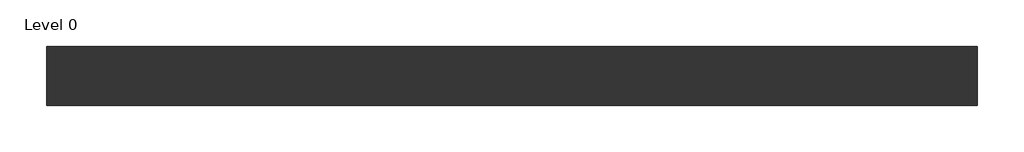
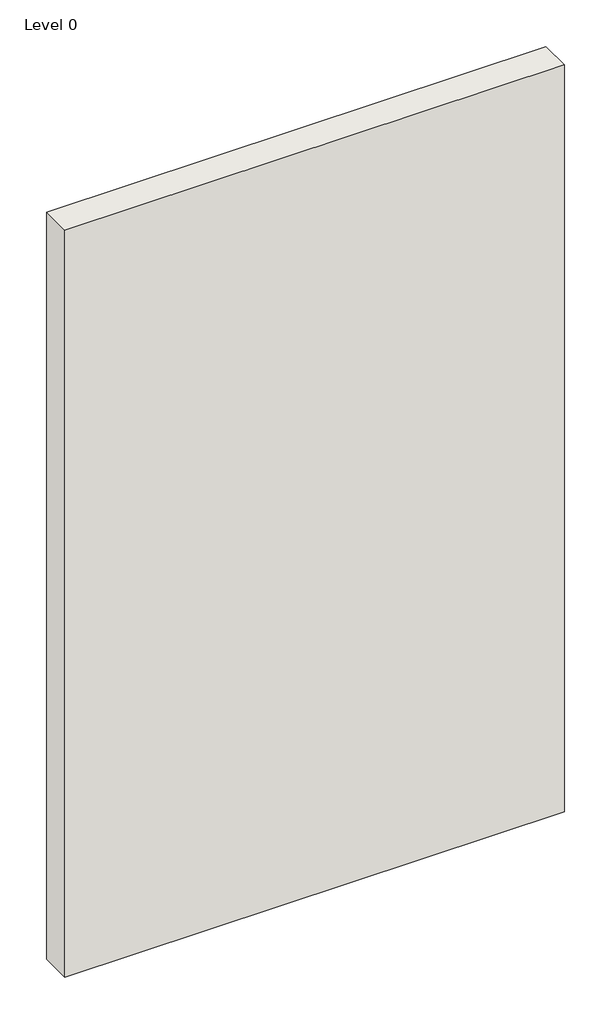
# One storey: 1 wall.
"""IFC4 building model written with IfcOpenShell, lengths in millimetres."""

import ifcopenshell
import ifcopenshell.guid

model = None  # the IFC model being written
_history = None  # IfcOwnerHistory: only IFC2X3 demands one
_inside = {}  # id of a spatial element -> (the spatial element, [elements in it])
_under = {}  # id of a project, library or spatial element -> (it, [spatial elements below it])
_declared = {}  # id of a project -> (the project, [libraries it declares])
_typed = {}  # id of a type object -> (the type object, [elements of that type])
_made_of = {}  # id of a material, layer set ... -> (it, [elements and type objects made of it])


def new_model(schema):
    """Start an empty IFC model of exactly this schema.

    Asked for "IFC4X3", IfcOpenShell would pick the latest addendum, in which some entities
    have other attributes; the version numbers below select the first issue.
    IFC2X3 requires an IfcOwnerHistory on every rooted entity: one is made here for all.
    """
    global model, _history
    if schema == "IFC4X3":
        model = ifcopenshell.file(schema_version=(4, 3, 0, 0))
    else:
        model = ifcopenshell.file(schema=schema)
    _inside.clear()
    _under.clear()
    _declared.clear()
    _typed.clear()
    _made_of.clear()
    _history = None
    if model.schema == "IFC2X3":
        org = make("IfcOrganization", Name="unknown")
        user = make(
            "IfcPersonAndOrganization",
            ThePerson=make("IfcPerson", FamilyName="unknown"),
            TheOrganization=org,
        )
        app = make(
            "IfcApplication",
            ApplicationDeveloper=org,
            Version="unknown",
            ApplicationFullName="unknown",
            ApplicationIdentifier="unknown",
        )
        _history = make(
            "IfcOwnerHistory",
            OwningUser=user,
            OwningApplication=app,
            ChangeAction="ADDED",
            CreationDate=0,
        )
    return model


def make(cls, **values):
    """One entity of the class cls with the attributes given. An attribute that is None is left unset."""
    return model.create_entity(
        cls, **{name: value for name, value in values.items() if value is not None}
    )


def rooted(cls, **values):
    """An entity with a GlobalId (a new one), such as an element, a storey or a relation."""
    return make(cls, GlobalId=ifcopenshell.guid.new(), OwnerHistory=_history, **values)


def si_unit(unit_type, name, prefix=None):
    """IfcSIUnit, for example si_unit("LENGTHUNIT", "METRE", prefix="MILLI")."""
    return make("IfcSIUnit", UnitType=unit_type, Prefix=prefix, Name=name)


def assignment(units):
    """IfcUnitAssignment: the units of a project."""
    return None if units is None else make("IfcUnitAssignment", Units=units)


def point(xyz):
    """IfcCartesianPoint."""
    return None if xyz is None else make("IfcCartesianPoint", Coordinates=xyz)


def direction(xyz):
    """IfcDirection."""
    return None if xyz is None else make("IfcDirection", DirectionRatios=xyz)


def frame(location, z_axis=None, x_axis=None):
    """IfcAxis2Placement3D, a coordinate frame: its origin and axes. An axis left out is left unset."""
    return make(
        "IfcAxis2Placement3D",
        Location=point(location),
        Axis=direction(z_axis),
        RefDirection=direction(x_axis),
    )


def origin():
    """The frame at (0, 0, 0) with its axes left unset."""
    return frame((0.0, 0.0, 0.0))


def origin_with_axes():
    """The frame at (0, 0, 0) with the z axis (0, 0, 1) and the x axis (1, 0, 0) written out."""
    return frame((0.0, 0.0, 0.0), z_axis=(0.0, 0.0, 1.0), x_axis=(1.0, 0.0, 0.0))


def place(relative_to, where):
    """IfcLocalPlacement: puts the frame where relative to a parent placement (None: the world)."""
    return make(
        "IfcLocalPlacement", PlacementRelTo=relative_to, RelativePlacement=where
    )


def context(
    kind, dimensions, precision=None, world=None, true_north=None, identifier=None
):
    """IfcGeometricRepresentationContext, for example the 3D "Model" context."""
    return make(
        "IfcGeometricRepresentationContext",
        ContextIdentifier=identifier,
        ContextType=kind,
        CoordinateSpaceDimension=dimensions,
        Precision=precision,
        WorldCoordinateSystem=world,
        TrueNorth=true_north,
    )


def project(units=None, contexts=None):
    """IfcProject with its units and contexts."""
    return rooted(
        "IfcProject",
        Name="project",
        RepresentationContexts=contexts,
        UnitsInContext=assignment(units),
    )


def spatial(cls, under=None, at=None, **own):
    """A site, building, storey or space (cls), placed at a placement, below another one or the project."""
    s = rooted(cls, ObjectPlacement=at, **own)
    if under is not None:
        _under.setdefault(under.id(), (under, []))[1].append(s)
    return s


def polyline(points):
    """IfcPolyline through the points."""
    return make("IfcPolyline", Points=[point(p) for p in points])


def outline(outer, holes=None, kind="AREA"):
    """IfcArbitraryClosedProfileDef: a profile drawn as a closed curve; with holes, ...WithVoids."""
    if holes is None:
        return make("IfcArbitraryClosedProfileDef", ProfileType=kind, OuterCurve=outer)
    return make(
        "IfcArbitraryProfileDefWithVoids",
        ProfileType=kind,
        OuterCurve=outer,
        InnerCurves=holes,
    )


def extrude(swept, where, along, depth):
    """IfcExtrudedAreaSolid: the profile swept, set in the frame where, extruded along a direction by depth."""
    return make(
        "IfcExtrudedAreaSolid",
        SweptArea=swept,
        Position=where,
        ExtrudedDirection=direction(along),
        Depth=depth,
    )


def shape(context_of_items, identifier, shape_type, items):
    """IfcShapeRepresentation: the items that make up one representation, for example the "Body"."""
    return make(
        "IfcShapeRepresentation",
        ContextOfItems=context_of_items,
        RepresentationIdentifier=identifier,
        RepresentationType=shape_type,
        Items=items,
    )


def made_of(thing, what):
    """Note that an element or type object is made of a material, layer set ...; save() writes the relation."""
    if what is not None:
        _made_of.setdefault(what.id(), (what, []))[1].append(thing)
    return thing


def element(
    cls,
    number,
    at=None,
    inside=None,
    cuts=None,
    type_object=None,
    material=None,
    context=None,
    identifier="Body",
    shape_type=None,
    held_by="IfcProductDefinitionShape",
    body=None,
    shapes=None,
    **own,
):
    """One element of the class cls, such as IfcWall. Its Tag is "e" and its number.

    at: its placement. inside: the storey or other place that contains it. cuts: it is an
    opening in that element (IfcRelVoidsElement). A single representation is given by context,
    identifier, shape_type and body (its items); several are given by shapes. held_by: the class
    of the entity that holds the representations. save() writes the other relations.
    """
    e = rooted(cls, Tag="e%d" % number, ObjectPlacement=at, **own)
    if body is not None:
        shapes = [shape(context, identifier, shape_type, body)]
    if shapes is not None:
        e.Representation = make(held_by, Representations=shapes)
    if inside is not None:
        _inside.setdefault(inside.id(), (inside, []))[1].append(e)
    if cuts is not None:
        rooted(
            "IfcRelVoidsElement", RelatingBuildingElement=cuts, RelatedOpeningElement=e
        )
    if type_object is not None:
        _typed.setdefault(type_object.id(), (type_object, []))[1].append(e)
    return made_of(e, material)


def aggregate(whole, parts):
    """IfcRelAggregates: a whole, such as a stair, and the parts it consists of."""
    return rooted("IfcRelAggregates", RelatingObject=whole, RelatedObjects=parts)


def save(model, path):
    """Write the relations noted so far, then the file.

    IfcRelAggregates (storeys below a building ...), IfcRelContainedInSpatialStructure (elements
    in a storey), IfcRelDefinesByType, IfcRelAssociatesMaterial and IfcRelDeclares: one each for
    every whole, place, type object, material and project.
    """
    for whole, parts in _under.values():
        aggregate(whole, parts)
    for where, things in _inside.values():
        rooted(
            "IfcRelContainedInSpatialStructure",
            RelatedElements=things,
            RelatingStructure=where,
        )
    for kind, things in _typed.values():
        rooted("IfcRelDefinesByType", RelatedObjects=things, RelatingType=kind)
    for what, things in _made_of.values():
        rooted("IfcRelAssociatesMaterial", RelatedObjects=things, RelatingMaterial=what)
    for by, libraries in _declared.values():
        rooted("IfcRelDeclares", RelatingContext=by, RelatedDefinitions=libraries)
    model.write(path)


model = new_model("IFC4")

# Units and contexts
model_context = context("Model", 3, world=origin())
ifc_project = project(units=[si_unit("LENGTHUNIT", "METRE", prefix="MILLI")], contexts=[model_context])

# Site, building, storey
site = spatial("IfcSite", under=ifc_project)
building = spatial("IfcBuilding", under=site)
storey = spatial("IfcBuildingStorey", under=building, Name="Level 0", Elevation=0.0)

# Wall
placement = place(None, origin())
element("IfcWall", 1, ObjectType="A046008 - GypWall Classic", at=placement, inside=storey, context=model_context, shape_type="SweptSolid", body=[
    extrude(outline(polyline([(1155.997948, 456.7669953), (-1944.002052, 456.7669953), (-1944.002052, 653.7669953), (1155.997948, 653.7669953), (1155.997948, 456.7669953)])), origin_with_axes(), (0.0, 0.0, 1.0), 4900.0),
])

save(model, "model.ifc")
